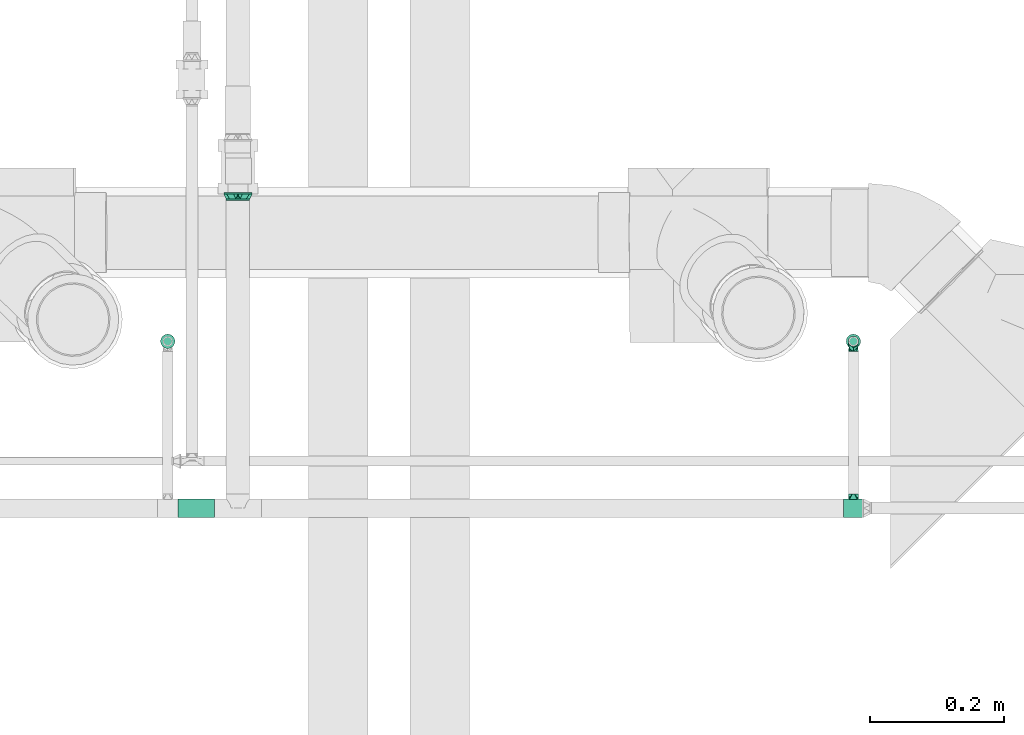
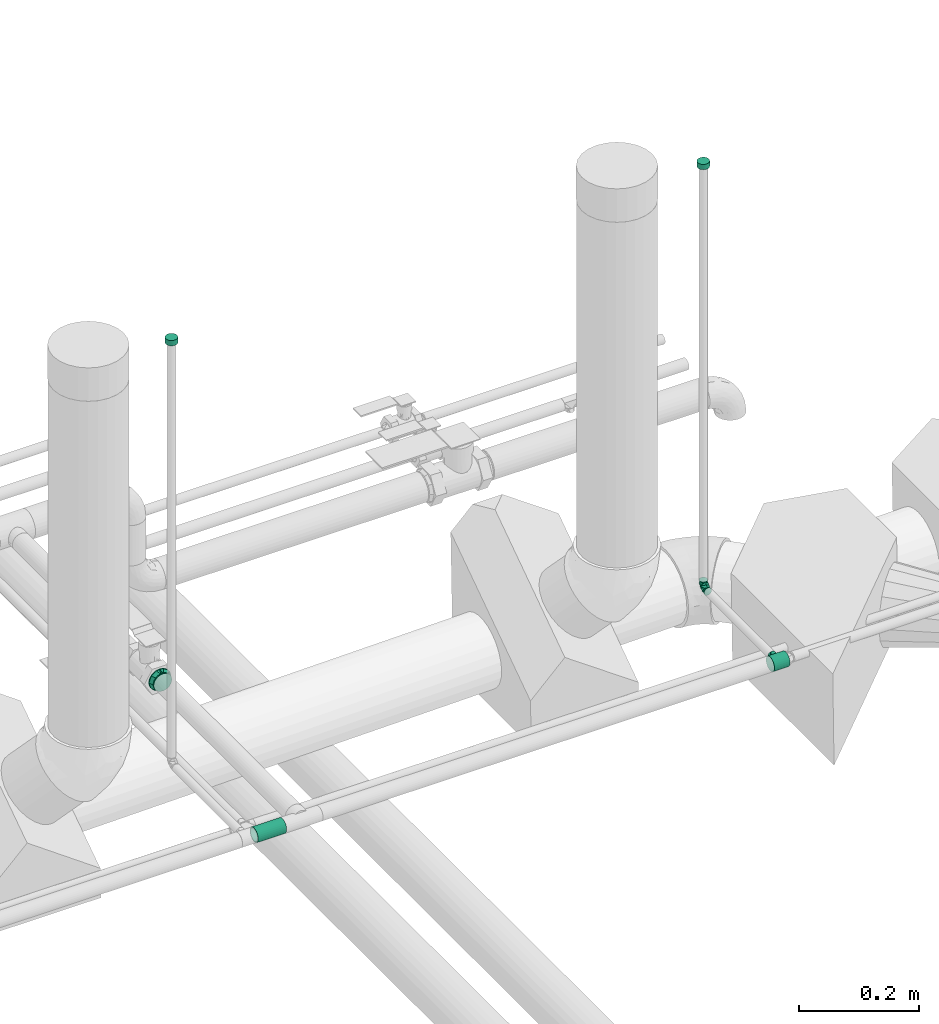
# One storey, part 85 of 156: 5 flow fittings, 1 flow segment.
"""IFC2X3 building model written with IfcOpenShell, lengths in millimetres."""

import ifcopenshell
import ifcopenshell.guid

model = None  # the IFC model being written
_history = None  # IfcOwnerHistory: only IFC2X3 demands one
_inside = {}  # id of a spatial element -> (the spatial element, [elements in it])
_under = {}  # id of a project, library or spatial element -> (it, [spatial elements below it])
_declared = {}  # id of a project -> (the project, [libraries it declares])
_typed = {}  # id of a type object -> (the type object, [elements of that type])
_made_of = {}  # id of a material, layer set ... -> (it, [elements and type objects made of it])


def new_model(schema):
    """Start an empty IFC model of exactly this schema.

    Asked for "IFC4X3", IfcOpenShell would pick the latest addendum, in which some entities
    have other attributes; the version numbers below select the first issue.
    IFC2X3 requires an IfcOwnerHistory on every rooted entity: one is made here for all.
    """
    global model, _history
    if schema == "IFC4X3":
        model = ifcopenshell.file(schema_version=(4, 3, 0, 0))
    else:
        model = ifcopenshell.file(schema=schema)
    _inside.clear()
    _under.clear()
    _declared.clear()
    _typed.clear()
    _made_of.clear()
    _history = None
    if model.schema == "IFC2X3":
        org = make("IfcOrganization", Name="unknown")
        user = make(
            "IfcPersonAndOrganization",
            ThePerson=make("IfcPerson", FamilyName="unknown"),
            TheOrganization=org,
        )
        app = make(
            "IfcApplication",
            ApplicationDeveloper=org,
            Version="unknown",
            ApplicationFullName="unknown",
            ApplicationIdentifier="unknown",
        )
        _history = make(
            "IfcOwnerHistory",
            OwningUser=user,
            OwningApplication=app,
            ChangeAction="ADDED",
            CreationDate=0,
        )
    return model


def make(cls, **values):
    """One entity of the class cls with the attributes given. An attribute that is None is left unset."""
    return model.create_entity(
        cls, **{name: value for name, value in values.items() if value is not None}
    )


def entity(cls, *values):
    """Any entity or typed value of the class cls, its attributes in the order of the schema. None: left unset."""
    e = model.create_entity(cls)
    for i, value in enumerate(values):
        if value is not None:
            e[i] = value
    return e


def rooted(cls, **values):
    """An entity with a GlobalId (a new one), such as an element, a storey or a relation."""
    return make(cls, GlobalId=ifcopenshell.guid.new(), OwnerHistory=_history, **values)


def si_unit(unit_type, name, prefix=None):
    """IfcSIUnit, for example si_unit("LENGTHUNIT", "METRE", prefix="MILLI")."""
    return make("IfcSIUnit", UnitType=unit_type, Prefix=prefix, Name=name)


def converted_unit(unit_type, name, factor, base, dimensions=None, offset=None):
    """IfcConversionBasedUnit, such as the inch: factor (a typed value) times the base unit."""
    return make(
        "IfcConversionBasedUnit"
        if offset is None
        else "IfcConversionBasedUnitWithOffset",
        ConversionOffset=offset,
        Dimensions=None
        if dimensions is None
        else entity("IfcDimensionalExponents", *dimensions),
        UnitType=unit_type,
        Name=name,
        ConversionFactor=make(
            "IfcMeasureWithUnit", ValueComponent=factor, UnitComponent=base
        ),
    )


def derived_unit(unit_type, elements):
    """IfcDerivedUnit: a product of units, each with its exponent."""
    return make(
        "IfcDerivedUnit",
        Elements=[
            make("IfcDerivedUnitElement", Unit=unit, Exponent=power)
            for unit, power in elements
        ],
        UnitType=unit_type,
    )


def assignment(units):
    """IfcUnitAssignment: the units of a project."""
    return None if units is None else make("IfcUnitAssignment", Units=units)


def point(xyz):
    """IfcCartesianPoint."""
    return None if xyz is None else make("IfcCartesianPoint", Coordinates=xyz)


def direction(xyz):
    """IfcDirection."""
    return None if xyz is None else make("IfcDirection", DirectionRatios=xyz)


def frame(location, z_axis=None, x_axis=None):
    """IfcAxis2Placement3D, a coordinate frame: its origin and axes. An axis left out is left unset."""
    return make(
        "IfcAxis2Placement3D",
        Location=point(location),
        Axis=direction(z_axis),
        RefDirection=direction(x_axis),
    )


def frame_2d(location, x_axis=None):
    """IfcAxis2Placement2D, a coordinate frame in the plane: its origin and x axis."""
    return make(
        "IfcAxis2Placement2D", Location=point(location), RefDirection=direction(x_axis)
    )


def origin_with_axes():
    """The frame at (0, 0, 0) with the z axis (0, 0, 1) and the x axis (1, 0, 0) written out."""
    return frame((0.0, 0.0, 0.0), z_axis=(0.0, 0.0, 1.0), x_axis=(1.0, 0.0, 0.0))


def origin_2d_with_axis():
    """The frame at (0, 0) in the plane with the x axis (1, 0) written out."""
    return frame_2d((0.0, 0.0), x_axis=(1.0, 0.0))


def place(relative_to, where):
    """IfcLocalPlacement: puts the frame where relative to a parent placement (None: the world)."""
    return make(
        "IfcLocalPlacement", PlacementRelTo=relative_to, RelativePlacement=where
    )


def context(
    kind, dimensions, precision=None, world=None, true_north=None, identifier=None
):
    """IfcGeometricRepresentationContext, for example the 3D "Model" context."""
    return make(
        "IfcGeometricRepresentationContext",
        ContextIdentifier=identifier,
        ContextType=kind,
        CoordinateSpaceDimension=dimensions,
        Precision=precision,
        WorldCoordinateSystem=world,
        TrueNorth=true_north,
    )


def subcontext(parent, identifier, kind, view, scale=None):
    """IfcGeometricRepresentationSubContext, for example "Body" below "Model"."""
    return make(
        "IfcGeometricRepresentationSubContext",
        ContextIdentifier=identifier,
        ContextType=kind,
        ParentContext=parent,
        TargetScale=scale,
        TargetView=view,
    )


def project(units=None, contexts=None):
    """IfcProject with its units and contexts."""
    return rooted(
        "IfcProject",
        Name="project",
        RepresentationContexts=contexts,
        UnitsInContext=assignment(units),
    )


def spatial(cls, under=None, at=None, **own):
    """A site, building, storey or space (cls), placed at a placement, below another one or the project."""
    s = rooted(cls, ObjectPlacement=at, **own)
    if under is not None:
        _under.setdefault(under.id(), (under, []))[1].append(s)
    return s


def profile(cls, at=None, kind="AREA", **sizes):
    """A parametric profile (cls). Its sizes go by their IFC names, for example OverallWidth=200.0."""
    return make(cls, ProfileType=kind, Position=at, **sizes)


def hollow_circle(**sizes):
    """IfcCircleHollowProfileDef."""
    return profile("IfcCircleHollowProfileDef", **sizes)


def extrude(swept, where, along, depth):
    """IfcExtrudedAreaSolid: the profile swept, set in the frame where, extruded along a direction by depth."""
    return make(
        "IfcExtrudedAreaSolid",
        SweptArea=swept,
        Position=where,
        ExtrudedDirection=direction(along),
        Depth=depth,
    )


def faces_of(points, faces, orient=None, outer=None):
    """IfcFace entities. A face is a list of loops; a loop is a list of indices into points, from 0.

    orient and outer hold one flag for each loop. By default every Orientation is true, the
    first loop of a face is its IfcFaceOuterBound and the others are IfcFaceBound.
    """
    made = []
    for i, loops in enumerate(faces):
        bounds = []
        for j, loop in enumerate(loops):
            is_outer = j == 0 if outer is None else outer[i][j]
            bounds.append(
                make(
                    "IfcFaceOuterBound" if is_outer else "IfcFaceBound",
                    Bound=make("IfcPolyLoop", Polygon=[points[k] for k in loop]),
                    Orientation=True if orient is None else orient[i][j],
                )
            )
        made.append(make("IfcFace", Bounds=bounds))
    return made


def open_shell(faces, orient=None, outer=None):
    """The faces of one IfcOpenShell. surface_model builds it on its shared points."""
    return ("IfcOpenShell", faces, orient, outer)


def surface_model(cls, points, shells):
    """IfcFaceBasedSurfaceModel or IfcShellBasedSurfaceModel (cls): surfaces that need not close."""
    shared = [point(p) for p in points]
    made = [make(c, CfsFaces=faces_of(shared, fs, o, b)) for c, fs, o, b in shells]
    if cls == "IfcFaceBasedSurfaceModel":
        return make(cls, FbsmFaces=made)
    return make(cls, SbsmBoundary=made)


def shape(context_of_items, identifier, shape_type, items):
    """IfcShapeRepresentation: the items that make up one representation, for example the "Body"."""
    return make(
        "IfcShapeRepresentation",
        ContextOfItems=context_of_items,
        RepresentationIdentifier=identifier,
        RepresentationType=shape_type,
        Items=items,
    )


def source(mapping_origin, context_of_items, identifier, shape_type, items):
    """IfcRepresentationMap: a shape defined once, which mapped items show again and again."""
    return make(
        "IfcRepresentationMap",
        MappingOrigin=mapping_origin,
        MappedRepresentation=shape(context_of_items, identifier, shape_type, items),
    )


def transform(
    local_origin,
    x_axis=None,
    y_axis=None,
    z_axis=None,
    scale=None,
    scale2=None,
    scale3=None,
    uniform=True,
):
    """IfcCartesianTransformationOperator3D, or its non-uniform kind. x_axis, y_axis, z_axis: its Axis1, 2, 3."""
    if uniform:
        return make(
            "IfcCartesianTransformationOperator3D",
            Axis1=direction(x_axis),
            Axis2=direction(y_axis),
            LocalOrigin=point(local_origin),
            Scale=scale,
            Axis3=direction(z_axis),
        )
    return make(
        "IfcCartesianTransformationOperator3DnonUniform",
        Axis1=direction(x_axis),
        Axis2=direction(y_axis),
        LocalOrigin=point(local_origin),
        Scale=scale,
        Axis3=direction(z_axis),
        Scale2=scale2,
        Scale3=scale3,
    )


def mapped(mapping_source, mapping_target):
    """IfcMappedItem: shows the shape of a source again, moved by a transform."""
    return make(
        "IfcMappedItem", MappingSource=mapping_source, MappingTarget=mapping_target
    )


def made_of(thing, what):
    """Note that an element or type object is made of a material, layer set ...; save() writes the relation."""
    if what is not None:
        _made_of.setdefault(what.id(), (what, []))[1].append(thing)
    return thing


def type_object(cls, material=None, **own):
    """A type object (cls), such as IfcWallType, which elements share."""
    return made_of(rooted(cls, **own), material)


def element(
    cls,
    number,
    at=None,
    inside=None,
    cuts=None,
    type_object=None,
    material=None,
    context=None,
    identifier="Body",
    shape_type=None,
    held_by="IfcProductDefinitionShape",
    body=None,
    shapes=None,
    **own,
):
    """One element of the class cls, such as IfcWall. Its Tag is "e" and its number.

    at: its placement. inside: the storey or other place that contains it. cuts: it is an
    opening in that element (IfcRelVoidsElement). A single representation is given by context,
    identifier, shape_type and body (its items); several are given by shapes. held_by: the class
    of the entity that holds the representations. save() writes the other relations.
    """
    e = rooted(cls, Tag="e%d" % number, ObjectPlacement=at, **own)
    if body is not None:
        shapes = [shape(context, identifier, shape_type, body)]
    if shapes is not None:
        e.Representation = make(held_by, Representations=shapes)
    if inside is not None:
        _inside.setdefault(inside.id(), (inside, []))[1].append(e)
    if cuts is not None:
        rooted(
            "IfcRelVoidsElement", RelatingBuildingElement=cuts, RelatedOpeningElement=e
        )
    if type_object is not None:
        _typed.setdefault(type_object.id(), (type_object, []))[1].append(e)
    return made_of(e, material)


def aggregate(whole, parts):
    """IfcRelAggregates: a whole, such as a stair, and the parts it consists of."""
    return rooted("IfcRelAggregates", RelatingObject=whole, RelatedObjects=parts)


def save(model, path):
    """Write the relations noted so far, then the file.

    IfcRelAggregates (storeys below a building ...), IfcRelContainedInSpatialStructure (elements
    in a storey), IfcRelDefinesByType, IfcRelAssociatesMaterial and IfcRelDeclares: one each for
    every whole, place, type object, material and project.
    """
    for whole, parts in _under.values():
        aggregate(whole, parts)
    for where, things in _inside.values():
        rooted(
            "IfcRelContainedInSpatialStructure",
            RelatedElements=things,
            RelatingStructure=where,
        )
    for kind, things in _typed.values():
        rooted("IfcRelDefinesByType", RelatedObjects=things, RelatingType=kind)
    for what, things in _made_of.values():
        rooted("IfcRelAssociatesMaterial", RelatedObjects=things, RelatingMaterial=what)
    for by, libraries in _declared.values():
        rooted("IfcRelDeclares", RelatingContext=by, RelatedDefinitions=libraries)
    model.write(path)


model = new_model("IFC2X3")

# Units and contexts
model_context = context("Model", 3, precision=0.01, world=frame((0.0, 4.29681676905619e-09, 0.0)), true_north=direction((4.01073788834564e-13, 1.0)))
plan_context = context("Plan", 3, precision=0.01, world=frame((0.0, 4.29681676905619e-09, 0.0)), true_north=direction((4.01073788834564e-13, 1.0)))
body_context = subcontext(model_context, "Body", "Model", "MODEL_VIEW")
ifc_project = project(units=[converted_unit("PLANEANGLEUNIT", "DEGREE", entity("IfcPositiveLengthMeasure", 0.0174532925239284), si_unit("PLANEANGLEUNIT", "RADIAN"), dimensions=[0, 0, 0, 0, 0, 0, 0]), si_unit("AREAUNIT", "SQUARE_METRE"), si_unit("LENGTHUNIT", "METRE", prefix="MILLI"), si_unit("MASSUNIT", "GRAM", prefix="KILO"), si_unit("POWERUNIT", "WATT"), si_unit("PRESSUREUNIT", "PASCAL", prefix="KILO"), si_unit("FORCEUNIT", "NEWTON", prefix="KILO"), si_unit("ELECTRICVOLTAGEUNIT", "VOLT"), si_unit("ELECTRICCURRENTUNIT", "AMPERE"), si_unit("THERMODYNAMICTEMPERATUREUNIT", "DEGREE_CELSIUS"), si_unit("TIMEUNIT", "SECOND"), si_unit("VOLUMEUNIT", "CUBIC_METRE"), derived_unit("LINEARVELOCITYUNIT", [(si_unit("LENGTHUNIT", "METRE"), 1), (si_unit("TIMEUNIT", "SECOND"), -1)]), derived_unit("VOLUMETRICFLOWRATEUNIT", [(si_unit("VOLUMEUNIT", "CUBIC_METRE"), 1), (si_unit("TIMEUNIT", "SECOND"), -1)]), derived_unit("THERMALTRANSMITTANCEUNIT", [(si_unit("POWERUNIT", "WATT"), 1), (si_unit("THERMODYNAMICTEMPERATUREUNIT", "KELVIN"), -1), (si_unit("AREAUNIT", "SQUARE_METRE"), -1)]), derived_unit("SOUNDPRESSUREUNIT", [(si_unit("PRESSUREUNIT", "PASCAL"), 1)])], contexts=[model_context, plan_context])

# Site, building, storey
site_placement = place(None, frame((0.0, -4.29681676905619e-09, 0.0), z_axis=(0.0, 0.0, 1.0), x_axis=(1.0, 0.0, 0.0)))
site = spatial("IfcSite", under=ifc_project, at=site_placement, CompositionType="ELEMENT")
building_placement = place(site_placement, frame((0.0, 4.29681676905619e-09, 0.0), z_axis=(0.0, 0.0, 1.0), x_axis=(1.0, 0.0, 0.0)))
building = spatial("IfcBuilding", under=site, at=building_placement, Name="mc-building", CompositionType="ELEMENT")
storey_placement = place(building_placement, frame((0.0, 0.0, 205200.0), z_axis=(0.0, 0.0, 1.0), x_axis=(1.0, 0.0, 0.0)))
storey = spatial("IfcBuildingStorey", under=building, at=storey_placement, Name="Nivå D + 1,2 m", CompositionType="ELEMENT", Elevation=205200.0)

# Flow fittings
pipe_fitting_type_1 = type_object("IfcPipeFittingType", Name="magi_pipe_elbow_short_001", PredefinedType="BEND")
shared_shape_1 = source(origin_with_axes(), body_context, "Body", "SurfaceModel", [
    surface_model("IfcShellBasedSurfaceModel", [(-15.0, 0.0, -7.5), (-15.0, -6.49519, -3.75), (-15.0, 1.94114, -7.24444), (-15.0, 3.75, -6.49519), (-15.0, 5.3033, -5.3033), (-15.0, 7.24444, -1.94114), (-15.0, 6.49519, -3.75), (-15.0, -5.3033, -5.3033), (-15.0, -3.75, -6.49519), (-15.0, -1.94114, -7.24444), (-15.0, -7.24444, -1.94114), (-15.0, -7.5, 0.0), (-15.0, -6.49519, 3.75), (-15.0, 7.24444, 1.94114), (-15.0, 6.49519, 3.75), (-15.0, 3.75, 6.49519), (-15.0, 1.94114, 7.24444), (-15.0, 5.3033, 5.3033), (-15.0, -5.3033, 5.3033), (-15.0, -7.24444, 1.94114), (-15.0, -1.94114, 7.24444), (-15.0, 0.0, 7.5), (-15.0, -3.75, 6.49519), (-15.0, 7.5, 0.0), (-1.94114, 15.0, -7.24444), (6.49519, 15.0, -3.75), (0.0, 15.0, -7.5), (-5.3033, 15.0, -5.3033), (-3.75, 15.0, -6.49519), (-6.49519, 15.0, -3.75), (-7.24444, 15.0, -1.94114), (3.75, 15.0, -6.49519), (5.3033, 15.0, -5.3033), (1.94114, 15.0, -7.24444), (7.5, 15.0, 0.0), (7.24444, 15.0, -1.94114), (-7.24444, 15.0, 1.94114), (6.49519, 15.0, 3.75), (-3.75, 15.0, 6.49519), (-6.49519, 15.0, 3.75), (-1.94114, 15.0, 7.24444), (-5.3033, 15.0, 5.3033), (5.3033, 15.0, 5.3033), (7.24444, 15.0, 1.94114), (3.75, 15.0, 6.49519), (0.0, 15.0, 7.5), (1.94114, 15.0, 7.24444), (-7.5, 15.0, 0.0), (-13.40845, -7.07355, 0.0), (-8.7589, -2.47707, 6.60232), (-8.6338, -5.79418, 0.0), (-3.75, -4.48557, 0.0), (0.36779, -0.36779, 0.0), (2.42668, 1.69111, 0.0), (-2.25176, 0.98822, 6.3797), (-1.69111, -2.42668, 0.0), (-11.8169, -6.64709, 0.0), (-5.9304, 5.9304, 7.17811), (-4.11647, 8.02676, 7.20749), (2.47708, 8.7589, 6.60232), (1.67739, 4.87408, 5.99192), (4.48557, 3.75, 0.0), (-4.78013, -1.73268, 5.91836), (7.07355, 13.40845, 0.0), (6.64709, 11.8169, 0.0), (-8.02675, 4.11647, 7.20749), (-8.59835, 12.34835, 0.0), (-12.34835, 8.59835, 0.0), (-9.6967, 9.6967, 0.0), (5.79418, 8.6338, 0.0), (-8.7589, -2.47707, -6.60232), (-4.11647, 8.02676, -7.20749), (0.71542, 3.43733, -5.99192), (-2.23993, 1.78364, -6.69976), (2.47708, 8.7589, -6.60232), (-11.39207, 6.08032, -5.22727), (-7.08629, 1.82323, -7.49084), (-8.19523, 6.76007, -6.13545)], [open_shell([[[0, 1, 2]], [[3, 2, 4]], [[5, 6, 4]], [[4, 2, 1]], [[5, 4, 1]], [[7, 1, 8]], [[9, 8, 1]], [[10, 11, 1]], [[0, 9, 1]], [[11, 12, 1]], [[12, 5, 1]], [[13, 5, 12]], [[14, 13, 15]], [[13, 16, 15]], [[17, 14, 15]], [[16, 13, 12]], [[12, 18, 16]], [[12, 11, 19]], [[20, 21, 22]], [[18, 22, 21]], [[16, 18, 21]], [[13, 23, 5]], [[24, 25, 26]], [[27, 24, 28]], [[27, 29, 30]], [[25, 24, 27]], [[25, 27, 30]], [[31, 25, 32]], [[25, 31, 33]], [[25, 34, 35]], [[25, 33, 26]], [[30, 34, 25]], [[30, 36, 34]], [[34, 36, 37]], [[38, 36, 39]], [[38, 40, 36]], [[38, 39, 41]], [[37, 36, 40]], [[40, 42, 37]], [[43, 34, 37]], [[44, 45, 46]], [[45, 44, 42]], [[45, 42, 40]], [[36, 30, 47]], [[19, 48, 12]], [[49, 50, 51]], [[52, 53, 54]], [[54, 55, 52]], [[22, 18, 56]], [[12, 56, 18]], [[57, 54, 58]], [[22, 50, 20]], [[21, 20, 50]], [[59, 60, 61]], [[59, 58, 60]], [[55, 54, 62]], [[21, 50, 49]], [[21, 49, 16]], [[62, 49, 51]], [[62, 51, 55]], [[37, 63, 43]], [[49, 15, 16]], [[64, 63, 37]], [[13, 65, 23]], [[14, 17, 49]], [[54, 65, 62]], [[15, 49, 17]], [[57, 58, 66]], [[67, 57, 68]], [[53, 60, 54]], [[46, 45, 69]], [[69, 44, 46]], [[41, 59, 38]], [[40, 59, 45]], [[42, 44, 64]], [[54, 60, 58]], [[64, 44, 69]], [[61, 60, 53]], [[43, 63, 34]], [[59, 61, 69]], [[58, 47, 66]], [[22, 56, 50]], [[54, 57, 65]], [[49, 65, 14]], [[36, 47, 58]], [[64, 37, 42]], [[39, 36, 58]], [[14, 65, 13]], [[41, 39, 59]], [[19, 11, 48]], [[39, 58, 59]], [[48, 56, 12]], [[38, 59, 40]], [[59, 69, 45]], [[49, 62, 65]], [[57, 67, 65]], [[66, 68, 57]], [[67, 23, 65]], [[70, 50, 0]], [[71, 72, 73]], [[74, 71, 29]], [[70, 2, 3]], [[70, 51, 50]], [[35, 34, 63]], [[75, 4, 6]], [[75, 5, 23]], [[6, 5, 75]], [[51, 76, 55]], [[75, 23, 67]], [[70, 4, 75]], [[48, 11, 10]], [[8, 56, 7]], [[0, 50, 9]], [[51, 70, 76]], [[56, 8, 50]], [[8, 9, 50]], [[70, 0, 2]], [[66, 47, 71]], [[52, 72, 53]], [[4, 70, 3]], [[70, 75, 76]], [[73, 52, 55]], [[71, 68, 66]], [[61, 53, 72]], [[31, 64, 69]], [[30, 71, 47]], [[27, 74, 29]], [[56, 1, 7]], [[28, 24, 74]], [[63, 64, 25]], [[56, 48, 1]], [[28, 74, 27]], [[1, 48, 10]], [[26, 74, 24]], [[33, 69, 26]], [[29, 71, 30]], [[32, 64, 31]], [[69, 33, 31]], [[68, 71, 77]], [[74, 26, 69]], [[25, 35, 63]], [[61, 72, 74]], [[61, 74, 69]], [[67, 77, 75]], [[74, 72, 71]], [[25, 64, 32]], [[76, 77, 73]], [[75, 77, 76]], [[77, 71, 73]], [[55, 76, 73]], [[72, 52, 73]], [[77, 67, 68]]])]),
])
flow_fitting_1_placement = place(storey_placement, frame((327652.53293, 462562.63355, 4318.0), z_axis=(1.0, 0.0, 0.0), x_axis=(0.0, 1.0, 0.0)))
element("IfcFlowFitting", 1, at=flow_fitting_1_placement, inside=storey, type_object=pipe_fitting_type_1, Name="magi_pipe_elbow_short_001", context=body_context, shape_type="MappedRepresentation", body=[
    mapped(shared_shape_1, transform((0.0, 0.0, 0.0), scale=1.0)),
])
pipe_fitting_type_2 = type_object("IfcPipeFittingType", Name="magi_pipe_fe_plug_001", PredefinedType="OBSTRUCTION")
shared_shape_2 = source(origin_with_axes(), body_context, "Body", "SurfaceModel", [
    surface_model("IfcShellBasedSurfaceModel", [(0.0, 5.35, -9.26647), (0.0, 2.76936, -10.33541), (0.0, 0.0, -10.7), (0.0, 7.56604, -7.56604), (0.0, 9.26647, -5.35), (0.0, 0.0, 10.7), (0.0, -7.56604, -7.56604), (0.0, -10.7, 0.0), (0.0, -2.76936, -10.33541), (0.0, -5.35, -9.26647), (0.0, -10.33541, -2.76936), (0.0, -9.26647, -5.35), (0.0, 10.33541, -2.76936), (0.0, 10.7, 0.0), (0.0, 10.33541, 2.76936), (0.0, 2.76936, 10.33541), (0.0, 9.26647, 5.35), (0.0, 5.35, 9.26647), (0.0, 7.56604, 7.56604), (0.0, -9.26647, 5.35), (0.0, -7.56604, 7.56604), (0.0, -10.33541, 2.76936), (0.0, -5.35, 9.26647), (0.0, -2.76936, 10.33541), (10.7, 0.0, -10.7), (10.7, 2.76936, -10.33541), (10.7, 5.35, -9.26647), (10.7, -2.76936, -10.33541), (10.7, 9.26647, 5.35), (10.7, -10.7, 0.0), (10.7, 7.56604, -7.56604), (10.7, 10.7, 0.0), (10.7, 9.26647, -5.35), (10.7, -7.56604, -7.56604), (10.7, -5.35, -9.26647), (10.7, -10.33541, -2.76936), (10.7, -9.26647, -5.35), (10.7, 10.33541, -2.76936), (10.7, 10.33541, 2.76936), (10.7, 2.76936, 10.33541), (10.7, 5.35, 9.26647), (10.7, 7.56604, 7.56604), (10.7, 0.0, 10.7), (10.7, -10.33541, 2.76936), (10.7, -7.56604, 7.56604), (10.7, -9.26647, 5.35), (10.7, -2.76936, 10.33541), (10.7, -5.35, 9.26647)], [open_shell([[[0, 1, 2]], [[3, 0, 2]], [[4, 3, 5]], [[6, 3, 2]], [[3, 7, 5]], [[8, 9, 2]], [[9, 6, 2]], [[10, 7, 11]], [[6, 11, 7]], [[6, 7, 3]], [[12, 4, 13]], [[14, 13, 15]], [[16, 14, 15]], [[16, 15, 17]], [[18, 16, 17]], [[5, 15, 13]], [[19, 20, 21]], [[5, 21, 20]], [[22, 23, 20]], [[5, 20, 23]], [[21, 5, 7]], [[13, 4, 5]], [[24, 25, 26]], [[27, 24, 26]], [[28, 29, 30]], [[26, 30, 27]], [[31, 30, 32]], [[27, 33, 34]], [[33, 27, 35]], [[33, 35, 36]], [[35, 27, 29]], [[27, 30, 29]], [[32, 37, 31]], [[38, 28, 30]], [[39, 29, 28]], [[40, 39, 28]], [[40, 28, 41]], [[29, 39, 42]], [[43, 44, 45]], [[44, 43, 46]], [[44, 46, 47]], [[43, 29, 46]], [[42, 46, 29]], [[30, 31, 38]], [[43, 7, 29]], [[45, 21, 43]], [[20, 44, 47]], [[45, 44, 19]], [[22, 47, 46]], [[45, 19, 21]], [[21, 7, 43]], [[23, 42, 5]], [[23, 22, 46]], [[20, 47, 22]], [[20, 19, 44]], [[42, 23, 46]], [[40, 15, 39]], [[41, 17, 40]], [[16, 28, 38]], [[41, 28, 18]], [[14, 38, 31]], [[40, 17, 15]], [[15, 5, 39]], [[14, 16, 38]], [[18, 28, 16]], [[18, 17, 41]], [[13, 14, 31]], [[39, 5, 42]], [[37, 13, 31]], [[32, 12, 37]], [[3, 30, 26]], [[32, 30, 4]], [[0, 26, 25]], [[32, 4, 12]], [[12, 13, 37]], [[1, 24, 2]], [[1, 0, 25]], [[3, 26, 0]], [[3, 4, 30]], [[24, 1, 25]], [[34, 8, 27]], [[33, 9, 34]], [[11, 36, 35]], [[33, 36, 6]], [[10, 35, 29]], [[34, 9, 8]], [[8, 2, 27]], [[10, 11, 35]], [[6, 36, 11]], [[6, 9, 33]], [[7, 10, 29]], [[27, 2, 24]]])]),
])
for number, where, z_axis, x_axis, name in (
    (2, (326629.5275, 462562.63355, 5174.0), (0.0, -1.0, 0.0), (0.0, 0.0, 1.0), "magi_pipe_fe_plug_001"),
    (3, (327652.53293, 462562.63355, 5174.0), (0.0, -1.0, 0.0), (0.0, 0.0, 1.0), "magi_pipe_fe_plug_001"),
):
    element("IfcFlowFitting", number, at=place(storey_placement, frame(where, z_axis=z_axis, x_axis=x_axis)), inside=storey, type_object=pipe_fitting_type_2, Name=name, context=body_context, shape_type="MappedRepresentation", body=[
        mapped(shared_shape_2, transform((0.0, 0.0, 0.0), scale=1.0)),
    ])
pipe_fitting_type_3 = type_object("IfcPipeFittingType", Name="magi_pipe_tee_centric_90_001", PredefinedType="JUNCTION")
shared_shape_3 = source(origin_with_axes(), body_context, "Body", "SurfaceModel", [
    surface_model("IfcShellBasedSurfaceModel", [(-15.0, 3.62347, -13.52296), (-15.0, 0.0, -14.0), (-15.0, 9.89949, -9.89949), (-15.0, 7.0, -12.12436), (-15.0, 13.52296, -3.62347), (-15.0, 12.12436, -7.0), (-15.0, -12.12436, -7.0), (-15.0, -9.89949, -9.89949), (-15.0, -7.0, -12.12436), (-15.0, -3.62347, -13.52296), (-15.0, -13.52296, -3.62347), (-15.0, -14.0, 0.0), (-15.0, 14.0, 0.0), (-15.0, 12.12436, 7.0), (-15.0, 13.52296, 3.62347), (-15.0, 3.62347, 13.52296), (-15.0, 7.0, 12.12436), (-15.0, 9.89949, 9.89949), (-15.0, 0.0, 14.0), (-15.0, -13.52296, 3.62347), (-15.0, -12.12436, 7.0), (-15.0, -9.89949, 9.89949), (-15.0, -7.0, 12.12436), (-15.0, -3.62347, 13.52296), (15.0, 9.89949, -9.89949), (15.0, 0.0, -14.0), (15.0, 3.62347, -13.52296), (15.0, 7.0, -12.12436), (15.0, 12.12436, -7.0), (15.0, 13.52296, -3.62347), (15.0, -12.12436, -7.0), (15.0, -7.0, -12.12436), (15.0, -9.89949, -9.89949), (15.0, -3.62347, -13.52296), (15.0, -14.0, 0.0), (15.0, -13.52296, -3.62347), (15.0, -7.0, 12.12436), (15.0, 14.0, 0.0), (15.0, 13.52296, 3.62347), (15.0, 12.12436, 7.0), (15.0, 3.62347, 13.52296), (15.0, 7.0, 12.12436), (15.0, 9.89949, 9.89949), (15.0, 0.0, 14.0), (15.0, -12.12436, 7.0), (15.0, -13.52296, 3.62347), (15.0, -9.89949, 9.89949), (15.0, -3.62347, 13.52296), (15.0, -13.76148, 1.81173), (7.03381, -13.75589, 2.60297), (7.5, -14.0, 0.0), (5.73139, -13.13769, 4.83748), (1.3253, -11.89565, 7.38198), (15.0, -12.82366, 5.31173), (3.77416, -12.40944, 6.48118), (-3.77483, -12.40965, 6.48079), (-15.0, -12.82366, 5.31173), (-5.73324, -13.1385, 4.83528), (-7.03405, -13.75601, 2.60233), (-15.0, -13.76148, 1.81173), (-7.5, -14.0, 0.0), (-1.32746, -11.89589, 7.38159), (-5.73324, -13.1385, -4.83528), (-15.0, -12.82366, -5.31173), (-15.0, -13.76148, -1.81173), (-7.03405, -13.75601, -2.60233), (3.77416, -12.40944, -6.48118), (15.0, -12.82366, -5.31173), (5.73139, -13.13769, -4.83748), (1.3253, -11.89565, -7.38198), (7.03381, -13.75589, -2.60297), (15.0, -13.76148, -1.81173), (-1.32746, -11.89589, -7.38159), (-3.77483, -12.40965, -6.48079), (5.3033, -21.0, -5.3033), (0.0, -21.0, -7.5), (1.94114, -21.0, -7.24444), (3.75, -21.0, -6.49519), (6.49519, -21.0, -3.75), (7.24444, -21.0, -1.94114), (-5.3033, -21.0, -5.3033), (-7.5, -21.0, 0.0), (-1.94114, -21.0, -7.24444), (-3.75, -21.0, -6.49519), (-6.49519, -21.0, -3.75), (-7.24444, -21.0, -1.94114), (3.75, -21.0, 6.49519), (7.5, -21.0, 0.0), (7.24444, -21.0, 1.94114), (6.49519, -21.0, 3.75), (0.0, -21.0, 7.5), (5.3033, -21.0, 5.3033), (1.94114, -21.0, 7.24444), (-7.24444, -21.0, 1.94114), (-5.3033, -21.0, 5.3033), (-6.49519, -21.0, 3.75), (-3.75, -21.0, 6.49519), (-1.94114, -21.0, 7.24444)], [open_shell([[[0, 1, 2]], [[3, 0, 2]], [[1, 4, 5]], [[2, 1, 5]], [[6, 4, 1]], [[7, 6, 8]], [[9, 8, 6]], [[10, 11, 6]], [[1, 9, 6]], [[6, 11, 4]], [[11, 12, 4]], [[13, 14, 12]], [[15, 13, 12]], [[13, 15, 16]], [[17, 13, 16]], [[18, 15, 12]], [[19, 20, 11]], [[20, 21, 11]], [[22, 23, 12]], [[21, 22, 11]], [[12, 23, 18]], [[12, 11, 22]], [[24, 25, 26]], [[24, 26, 27]], [[28, 29, 25]], [[28, 25, 24]], [[25, 29, 30]], [[31, 30, 32]], [[30, 31, 33]], [[30, 34, 35]], [[30, 33, 25]], [[30, 36, 34]], [[30, 29, 37]], [[37, 38, 39]], [[37, 39, 40]], [[41, 40, 39]], [[41, 39, 42]], [[37, 40, 43]], [[34, 44, 45]], [[34, 46, 44]], [[47, 36, 30]], [[34, 36, 46]], [[43, 47, 37]], [[30, 37, 47]], [[48, 45, 49]], [[50, 34, 48]], [[45, 51, 49]], [[44, 46, 52]], [[50, 48, 49]], [[51, 53, 54]], [[52, 54, 44]], [[46, 21, 52]], [[54, 53, 44]], [[55, 56, 57]], [[58, 59, 60]], [[11, 60, 59]], [[58, 57, 19]], [[55, 61, 20]], [[51, 45, 53]], [[20, 56, 55]], [[20, 61, 21]], [[57, 56, 19]], [[61, 52, 21]], [[58, 19, 59]], [[46, 22, 21]], [[18, 47, 43]], [[23, 36, 47]], [[15, 43, 40]], [[39, 38, 14]], [[17, 41, 42]], [[13, 42, 39]], [[40, 41, 16]], [[12, 38, 37]], [[22, 36, 23]], [[23, 47, 18]], [[15, 18, 43]], [[40, 16, 15]], [[16, 41, 17]], [[13, 17, 42]], [[14, 13, 39]], [[38, 12, 14]], [[36, 22, 46]], [[29, 12, 37]], [[4, 29, 28]], [[28, 24, 5]], [[9, 25, 33]], [[62, 10, 63]], [[1, 26, 25]], [[27, 26, 0]], [[33, 31, 8]], [[24, 27, 2]], [[2, 5, 24]], [[5, 4, 28]], [[4, 12, 29]], [[60, 64, 65]], [[3, 2, 27]], [[26, 1, 0]], [[25, 9, 1]], [[33, 8, 9]], [[66, 67, 68]], [[27, 0, 3]], [[31, 7, 8]], [[32, 30, 69]], [[70, 35, 71]], [[66, 69, 30]], [[67, 66, 30]], [[32, 69, 7]], [[34, 50, 71]], [[70, 68, 35]], [[70, 71, 50]], [[35, 68, 67]], [[72, 73, 6]], [[6, 7, 72]], [[62, 63, 73]], [[72, 7, 69]], [[62, 65, 10]], [[65, 64, 10]], [[64, 60, 11]], [[63, 6, 73]], [[32, 7, 31]], [[74, 75, 76]], [[74, 76, 77]], [[74, 78, 79]], [[75, 74, 80]], [[81, 74, 79]], [[82, 80, 83]], [[82, 75, 80]], [[84, 81, 85]], [[81, 84, 80]], [[74, 81, 80]], [[79, 86, 81]], [[87, 88, 89]], [[89, 86, 79]], [[86, 90, 81]], [[86, 89, 91]], [[90, 86, 92]], [[93, 94, 95]], [[94, 93, 90]], [[96, 90, 97]], [[90, 96, 94]], [[81, 90, 93]], [[89, 79, 87]], [[60, 81, 93]], [[58, 95, 94]], [[93, 95, 60]], [[94, 96, 58]], [[60, 95, 58]], [[57, 58, 97]], [[61, 55, 54]], [[57, 51, 55]], [[97, 90, 57]], [[96, 97, 58]], [[92, 51, 90]], [[86, 49, 92]], [[49, 91, 89]], [[86, 91, 49]], [[50, 89, 88]], [[51, 54, 55]], [[52, 61, 54]], [[89, 50, 49]], [[49, 51, 92]], [[88, 87, 50]], [[57, 90, 51]], [[50, 87, 79]], [[70, 78, 74]], [[79, 78, 50]], [[74, 77, 70]], [[50, 78, 70]], [[68, 70, 76]], [[69, 66, 72]], [[68, 73, 66]], [[76, 75, 68]], [[77, 76, 70]], [[62, 75, 82]], [[83, 65, 82]], [[65, 80, 84]], [[83, 80, 65]], [[60, 84, 85]], [[62, 73, 68]], [[72, 66, 73]], [[84, 60, 65]], [[65, 62, 82]], [[85, 81, 60]], [[68, 75, 62]]])]),
])
flow_fitting_2_placement = place(storey_placement, frame((327652.53293, 462313.63355, 4318.0), z_axis=(0.0, 0.0, 1.0), x_axis=(-1.0, 0.0, 0.0)))
element("IfcFlowFitting", 4, at=flow_fitting_2_placement, inside=storey, type_object=pipe_fitting_type_3, Name="magi_pipe_tee_centric_90_001", context=body_context, shape_type="MappedRepresentation", body=[
    mapped(shared_shape_3, transform((0.0, 0.0, 0.0), scale=1.0)),
])
pipe_fitting_type_4 = type_object("IfcPipeFittingType", Name="magi_pipe_fe_reducer_centric_short_001", PredefinedType="TRANSITION")
shared_shape_4 = source(origin_with_axes(), body_context, "Body", "SurfaceModel", [
    surface_model("IfcShellBasedSurfaceModel", [(-2.0, -10.6, -18.35974), (-2.0, 0.0, -21.2), (-2.0, -5.48696, -20.47763), (0.0, 17.15116, 12.46105), (0.0, 6.55116, -20.1624), (0.0, -21.2, 0.0), (0.0, -6.55116, -20.1624), (0.0, -17.15116, -12.46105), (-2.0, 0.0, 21.2), (-2.0, 5.48696, 20.47763), (-2.0, 10.6, 18.35974), (-2.0, 14.99066, 14.99066), (-2.0, 18.35974, 10.6), (-2.0, 20.47763, 5.48696), (-2.0, -5.48696, 20.47763), (-2.0, -14.99066, 14.99066), (-2.0, -10.6, 18.35974), (-2.0, -18.35974, 10.6), (-2.0, -21.2, 0.0), (-2.0, -20.47763, 5.48696), (-2.0, 14.99066, -14.99066), (-2.0, 20.47763, -5.48696), (-2.0, 18.35974, -10.6), (-2.0, 10.6, -18.35974), (-2.0, 21.2, 0.0), (0.0, 10.6, -18.35974), (0.0, 0.0, -21.2), (0.0, 5.48696, -20.47763), (0.0, 20.47763, -5.48696), (0.0, 14.99066, -14.99066), (0.0, 18.35974, -10.6), (0.0, -10.6, -18.35974), (0.0, -5.48696, -20.47763), (0.0, -18.35974, -10.6), (0.0, -20.47763, -5.48696), (0.0, 20.47763, 5.48696), (0.0, 18.35974, 10.6), (0.0, 14.99066, 14.99066), (0.0, 10.6, 18.35974), (0.0, 5.48696, 20.47763), (0.0, 0.0, 21.2), (0.0, -18.35974, 10.6), (0.0, -20.47763, 5.48696), (0.0, -14.99066, 14.99066), (0.0, -5.48696, 20.47763), (0.0, -10.6, 18.35974), (-2.0, -20.47763, -5.48696), (-2.0, -18.35974, -10.6), (-2.0, -14.99066, -14.99066), (0.0, -14.99066, -14.99066), (-2.0, 5.48696, -20.47763), (0.0, 21.2, 0.0), (0.0, 6.55116, 20.1624), (0.0, -17.15116, 12.46105), (0.0, -6.55116, 20.1624), (0.0, 17.15116, -12.46105), (9.4, 4.52933, -16.9037), (9.4, 8.75, -15.15544), (9.4, 12.37437, -12.37437), (9.4, 16.9037, -4.52933), (9.4, -8.75, -15.15544), (9.4, 15.15544, -8.75), (9.4, -16.9037, 4.52933), (9.4, -15.15544, -8.75), (9.4, 0.0, -17.5), (9.4, -4.52933, -16.9037), (9.4, -12.37437, -12.37437), (9.4, -17.5, 0.0), (9.4, -16.9037, -4.52933), (9.4, 0.0, 17.5), (9.4, 17.5, 0.0), (9.4, 16.9037, 4.52933), (9.4, 15.15544, 8.75), (9.4, 12.37437, 12.37437), (9.4, 4.52933, 16.9037), (9.4, 8.75, 15.15544), (9.4, -12.37437, 12.37437), (9.4, -15.15544, 8.75), (9.4, -8.75, 15.15544), (9.4, -4.52933, 16.9037), (7.4, 0.0, 17.5), (7.4, 4.52933, 16.9037), (7.4, 8.75, 15.15544), (7.4, -15.15544, -8.75), (7.4, 12.37437, 12.37437), (7.4, 15.15544, 8.75), (7.4, 16.9037, 4.52933), (7.4, -16.9037, 4.52933), (7.4, -8.75, 15.15544), (7.4, -12.37437, 12.37437), (7.4, -4.52933, 16.9037), (7.4, -15.15544, 8.75), (7.4, -17.5, 0.0), (7.4, 16.9037, -4.52933), (7.4, 12.37437, -12.37437), (7.4, 15.15544, -8.75), (7.4, 8.75, -15.15544), (7.4, 4.52933, -16.9037), (7.4, 0.0, -17.5), (7.4, -8.75, -15.15544), (7.4, -12.37437, -12.37437), (7.4, -16.9037, -4.52933), (7.4, -4.52933, -16.9037), (7.4, 17.5, 0.0), (7.4, -13.65578, -9.28078), (0.0, 11.85116, -16.31172), (0.0, 14.50116, -14.38638), (7.4, -14.93718, -6.18718), (0.0, -19.17558, -6.23052), (0.0, -18.16337, -9.34579), (7.4, 6.18718, -14.93718), (7.4, 14.93718, -6.18718), (0.0, 19.17558, -6.23052), (0.0, 0.0, -20.1624), (7.4, 3.09359, -16.21859), (7.4, 13.65578, -9.28078), (7.4, -3.09359, -16.21859), (7.4, 16.21859, -3.09359), (7.4, -16.21859, -3.09359), (0.0, -11.85116, -16.31172), (7.4, -6.18718, -14.93718), (7.4, -9.28078, -13.65578), (7.4, 9.28078, -13.65578), (7.4, 13.65578, 9.28078), (0.0, -11.85116, 16.31172), (0.0, -14.50116, 14.38638), (7.4, 14.93718, 6.18718), (0.0, 19.17558, 6.23052), (0.0, 18.16337, 9.34579), (7.4, -6.18718, 14.93718), (7.4, -14.93718, 6.18718), (0.0, -19.17558, 6.23052), (0.0, 0.0, 20.1624), (7.4, -3.09359, 16.21859), (7.4, -13.65578, 9.28078), (7.4, 3.09359, 16.21859), (7.4, -16.21859, 3.09359), (7.4, 16.21859, 3.09359), (0.0, 11.85116, 16.31172), (7.4, 6.18718, 14.93718), (7.4, 9.28078, 13.65578), (7.4, -9.28078, 13.65578)], [open_shell([[[0, 1, 2]], [[3, 4, 5]], [[5, 4, 6]], [[5, 6, 7]], [[8, 9, 10]], [[11, 12, 13]], [[14, 15, 16]], [[17, 18, 19]], [[20, 21, 22]], [[23, 21, 20]], [[21, 13, 24]], [[25, 26, 27]], [[28, 25, 29]], [[28, 29, 30]], [[26, 31, 32]], [[26, 25, 31]], [[33, 5, 34]], [[35, 36, 37]], [[38, 39, 40]], [[5, 41, 42]], [[43, 44, 45]], [[40, 44, 43]], [[46, 34, 18]], [[47, 33, 46]], [[31, 48, 0]], [[47, 48, 49]], [[32, 0, 2]], [[46, 33, 34]], [[34, 5, 18]], [[32, 31, 0]], [[49, 48, 31]], [[49, 33, 47]], [[26, 32, 2]], [[2, 1, 26]], [[50, 27, 1]], [[23, 25, 50]], [[30, 20, 22]], [[23, 20, 29]], [[28, 22, 21]], [[23, 29, 25]], [[25, 27, 50]], [[51, 28, 21]], [[30, 22, 28]], [[30, 29, 20]], [[24, 51, 21]], [[1, 27, 26]], [[13, 35, 24]], [[12, 36, 13]], [[38, 11, 10]], [[12, 11, 37]], [[39, 10, 9]], [[13, 36, 35]], [[35, 51, 24]], [[39, 38, 10]], [[37, 11, 38]], [[37, 36, 12]], [[40, 39, 9]], [[9, 8, 40]], [[14, 44, 8]], [[16, 45, 14]], [[41, 15, 17]], [[16, 15, 43]], [[42, 17, 19]], [[16, 43, 45]], [[45, 44, 14]], [[5, 42, 19]], [[41, 17, 42]], [[41, 43, 15]], [[18, 5, 19]], [[8, 44, 40]], [[52, 53, 54]], [[4, 3, 55]], [[55, 3, 51]], [[56, 57, 58]], [[56, 58, 59]], [[56, 59, 60]], [[59, 58, 61]], [[62, 63, 59]], [[64, 60, 65]], [[64, 56, 60]], [[60, 63, 66]], [[59, 63, 60]], [[63, 67, 68]], [[69, 59, 70]], [[71, 72, 73]], [[71, 73, 69]], [[74, 69, 73]], [[74, 73, 75]], [[69, 62, 59]], [[62, 76, 77]], [[67, 63, 62]], [[62, 78, 76]], [[78, 62, 79]], [[69, 79, 62]], [[70, 71, 69]], [[80, 81, 82]], [[83, 80, 82]], [[84, 85, 86]], [[84, 86, 82]], [[87, 80, 83]], [[88, 87, 89]], [[87, 88, 90]], [[89, 87, 91]], [[90, 80, 87]], [[87, 83, 92]], [[86, 83, 82]], [[86, 93, 83]], [[94, 93, 95]], [[94, 96, 97]], [[94, 97, 93]], [[98, 93, 97]], [[83, 99, 100]], [[101, 92, 83]], [[99, 98, 102]], [[99, 83, 93]], [[98, 99, 93]], [[93, 86, 103]], [[101, 68, 92]], [[83, 63, 101]], [[60, 100, 99]], [[83, 100, 66]], [[65, 99, 102]], [[101, 63, 68]], [[68, 67, 92]], [[65, 60, 99]], [[66, 100, 60]], [[66, 63, 83]], [[64, 65, 102]], [[102, 98, 64]], [[97, 56, 98]], [[96, 57, 97]], [[61, 94, 95]], [[96, 94, 58]], [[59, 95, 93]], [[96, 58, 57]], [[57, 56, 97]], [[70, 59, 93]], [[61, 95, 59]], [[61, 58, 94]], [[103, 70, 93]], [[98, 56, 64]], [[86, 71, 103]], [[85, 72, 86]], [[75, 84, 82]], [[85, 84, 73]], [[74, 82, 81]], [[86, 72, 71]], [[71, 70, 103]], [[74, 75, 82]], [[73, 84, 75]], [[73, 72, 85]], [[69, 74, 81]], [[81, 80, 69]], [[90, 79, 80]], [[88, 78, 90]], [[77, 89, 91]], [[88, 89, 76]], [[62, 91, 87]], [[88, 76, 78]], [[78, 79, 90]], [[67, 62, 87]], [[77, 91, 62]], [[77, 76, 89]], [[92, 67, 87]], [[80, 79, 69]], [[14, 8, 10]], [[10, 11, 14]], [[11, 21, 15]], [[14, 11, 15]], [[18, 17, 15]], [[15, 23, 18]], [[21, 11, 13]], [[15, 21, 23]], [[18, 23, 46]], [[46, 23, 50]], [[47, 0, 48]], [[1, 47, 46]], [[1, 0, 47]], [[46, 50, 1]], [[31, 25, 28]], [[31, 28, 37]], [[31, 33, 49]], [[31, 5, 33]], [[28, 51, 35]], [[31, 37, 5]], [[5, 37, 38]], [[43, 38, 40]], [[41, 5, 43]], [[43, 5, 38]], [[37, 28, 35]], [[80, 89, 84]], [[103, 84, 89]], [[89, 100, 103]], [[100, 98, 103]], [[94, 103, 98]], [[89, 92, 100]], [[52, 3, 5]], [[53, 52, 5]], [[7, 100, 104]], [[94, 105, 106]], [[107, 108, 109]], [[105, 110, 4]], [[94, 106, 55]], [[111, 55, 112]], [[113, 114, 98]], [[55, 111, 115]], [[113, 116, 6]], [[51, 117, 112]], [[5, 118, 92]], [[100, 7, 119]], [[119, 120, 121]], [[5, 108, 118]], [[116, 113, 98]], [[4, 110, 114]], [[116, 120, 6]], [[4, 114, 113]], [[122, 110, 105]], [[117, 51, 103]], [[107, 118, 108]], [[7, 104, 109]], [[104, 107, 109]], [[94, 55, 115]], [[120, 119, 6]], [[121, 100, 119]], [[117, 111, 112]], [[105, 94, 122]], [[3, 84, 123]], [[89, 124, 125]], [[126, 127, 128]], [[124, 129, 54]], [[89, 125, 53]], [[130, 53, 131]], [[132, 133, 80]], [[53, 130, 134]], [[132, 135, 52]], [[5, 136, 131]], [[51, 137, 103]], [[84, 3, 138]], [[138, 139, 140]], [[51, 127, 137]], [[135, 132, 80]], [[54, 129, 133]], [[135, 139, 52]], [[54, 133, 132]], [[141, 129, 124]], [[136, 5, 92]], [[126, 137, 127]], [[3, 123, 128]], [[123, 126, 128]], [[89, 53, 134]], [[139, 138, 52]], [[140, 84, 138]], [[136, 130, 131]], [[124, 89, 141]]])]),
])
flow_fitting_3_placement = place(storey_placement, frame((326734.3046, 462782.4875, 4318.0), z_axis=(0.0, 0.0, 1.0), x_axis=(0.0, -1.0, 0.0)))
element("IfcFlowFitting", 5, at=flow_fitting_3_placement, inside=storey, type_object=pipe_fitting_type_4, Name="magi_pipe_fe_reducer_centric_short_001", context=body_context, shape_type="MappedRepresentation", body=[
    mapped(shared_shape_4, transform((0.0, 0.0, 0.0), scale=1.0)),
])

# Flow segment
pipe_segment_type = type_object("IfcPipeSegmentType", Name="Kobberrør", PredefinedType="RIGIDSEGMENT")
shared_shape_5 = source(origin_with_axes(), body_context, "Body", "SweptSolid", [
    extrude(hollow_circle(Radius=14.0, WallThickness=2.0, at=origin_2d_with_axis()), frame((0.0, 0.0, 0.0), z_axis=(1.0, 0.0, 0.0), x_axis=(0.0, 1.0, 0.0)), (0.0, 0.0, 1.0), 54.8),
])
flow_segment_placement = place(storey_placement, frame((326644.5275, 462313.63355, 4318.0), z_axis=(0.0, 0.0, 1.0), x_axis=(1.0, 0.0, 0.0)))
element("IfcFlowSegment", 6, at=flow_segment_placement, inside=storey, type_object=pipe_segment_type, Name="Kobberrør", context=body_context, shape_type="MappedRepresentation", body=[
    mapped(shared_shape_5, transform((0.0, 0.0, 0.0), scale=1.0)),
])

save(model, "model.ifc")
